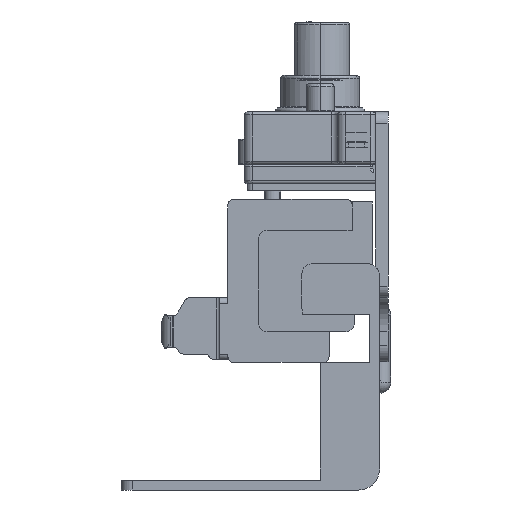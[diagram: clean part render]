
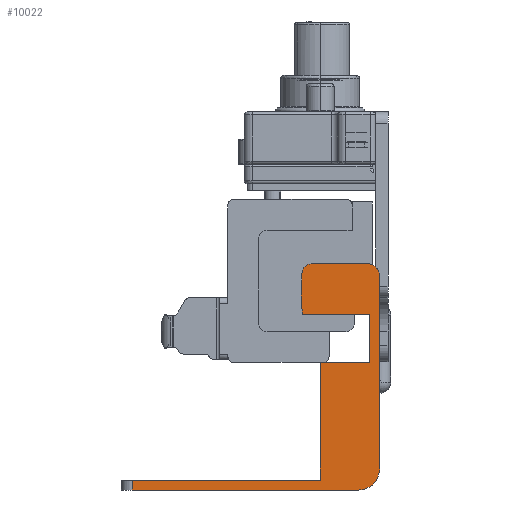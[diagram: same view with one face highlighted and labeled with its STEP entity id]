
A CAD part, left-side view. The second image highlights one B-rep face of the part: STEP entity #10022.
In plain terms, the highlighted planar face has unit normal (-1, 0, 0).
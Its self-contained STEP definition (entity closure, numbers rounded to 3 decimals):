
#54 = VERTEX_POINT ( 'NONE', #5776 ) ;
#110 = DIRECTION ( 'NONE',  ( 0., 0., -1. ) ) ;
#127 = ORIENTED_EDGE ( 'NONE', *, *, #11986, .T. ) ;
#458 = VERTEX_POINT ( 'NONE', #16526 ) ;
#469 = VECTOR ( 'NONE', #13310, 1000. ) ;
#476 = VERTEX_POINT ( 'NONE', #16461 ) ;
#521 = DIRECTION ( 'NONE',  ( 0., 0., 1. ) ) ;
#545 = DIRECTION ( 'NONE',  ( -1., 0., 0. ) ) ;
#578 = CARTESIAN_POINT ( 'NONE',  ( -242., -30.563, 57.579 ) ) ;
#926 = AXIS2_PLACEMENT_3D ( 'NONE', #9191, #8977, #8947 ) ;
#1147 = CIRCLE ( 'NONE', #926, 53. ) ;
#1173 = ORIENTED_EDGE ( 'NONE', *, *, #5533, .T. ) ;
#1194 = CARTESIAN_POINT ( 'NONE',  ( -242., 11.167, 21.319 ) ) ;
#1252 = DIRECTION ( 'NONE',  ( 0., 0., 1. ) ) ;
#1504 = VERTEX_POINT ( 'NONE', #8948 ) ;
#1641 = VECTOR ( 'NONE', #10338, 1000. ) ;
#1687 = ORIENTED_EDGE ( 'NONE', *, *, #9300, .F. ) ;
#1705 = ORIENTED_EDGE ( 'NONE', *, *, #10465, .T. ) ;
#1783 = ORIENTED_EDGE ( 'NONE', *, *, #4195, .T. ) ;
#1819 = FACE_OUTER_BOUND ( 'NONE', #3827, .T. ) ;
#2185 = CARTESIAN_POINT ( 'NONE',  ( -242., -22.263, 21.319 ) ) ;
#2455 = CIRCLE ( 'NONE', #3541, 1.5 ) ;
#2465 = VERTEX_POINT ( 'NONE', #13734 ) ;
#2596 = EDGE_CURVE ( 'NONE', #8496, #17043, #12895, .T. ) ;
#2975 = ORIENTED_EDGE ( 'NONE', *, *, #2596, .T. ) ;
#3174 = CARTESIAN_POINT ( 'NONE',  ( -242., -22.263, 42.249 ) ) ;
#3221 = EDGE_CURVE ( 'NONE', #1504, #8496, #14363, .T. ) ;
#3315 = VERTEX_POINT ( 'NONE', #7414 ) ;
#3541 = AXIS2_PLACEMENT_3D ( 'NONE', #10357, #10198, #10136 ) ;
#3647 = LINE ( 'NONE', #16770, #13446 ) ;
#3764 = VERTEX_POINT ( 'NONE', #6488 ) ;
#3827 = EDGE_LOOP ( 'NONE', ( #9555, #11843, #14229, #2975, #1173, #1783, #10419, #1687, #1705, #8712, #17726, #127, #16108, #14663, #11184 ) ) ;
#4038 = CIRCLE ( 'NONE', #11573, 2. ) ;
#4112 = LINE ( 'NONE', #17857, #14763 ) ;
#4195 = EDGE_CURVE ( 'NONE', #458, #7326, #16092, .T. ) ;
#4335 = EDGE_CURVE ( 'NONE', #12016, #9806, #4112, .T. ) ;
#4491 = VECTOR ( 'NONE', #16204, 1000. ) ;
#4633 = LINE ( 'NONE', #17490, #11622 ) ;
#5533 = EDGE_CURVE ( 'NONE', #17043, #458, #3647, .T. ) ;
#5776 = CARTESIAN_POINT ( 'NONE',  ( -242., -20.683, 59.849 ) ) ;
#6363 = VERTEX_POINT ( 'NONE', #16418 ) ;
#6488 = CARTESIAN_POINT ( 'NONE',  ( -242., 11.167, 21.319 ) ) ;
#6650 = LINE ( 'NONE', #17704, #17299 ) ;
#6696 = CARTESIAN_POINT ( 'NONE',  ( -242., -20.683, 59.836 ) ) ;
#6980 = DIRECTION ( 'NONE',  ( 0., 0., 1. ) ) ;
#6999 = DIRECTION ( 'NONE',  ( -1., 0., 0. ) ) ;
#7004 = CARTESIAN_POINT ( 'NONE',  ( -242., -20.913, 57.849 ) ) ;
#7326 = VERTEX_POINT ( 'NONE', #16889 ) ;
#7414 = CARTESIAN_POINT ( 'NONE',  ( -242., -19.343, 59.088 ) ) ;
#7622 = LINE ( 'NONE', #1194, #11720 ) ;
#8279 = LINE ( 'NONE', #15894, #4491 ) ;
#8496 = VERTEX_POINT ( 'NONE', #15447 ) ;
#8664 = EDGE_CURVE ( 'NONE', #12514, #3764, #8731, .T. ) ;
#8712 = ORIENTED_EDGE ( 'NONE', *, *, #11310, .T. ) ;
#8731 = LINE ( 'NONE', #10932, #1641 ) ;
#8948 = CARTESIAN_POINT ( 'NONE',  ( -242., 11.167, 19.549 ) ) ;
#8947 = DIRECTION ( 'NONE',  ( 0., 0., 1. ) ) ;
#8977 = DIRECTION ( 'NONE',  ( -1., 0., 0. ) ) ;
#9024 = EDGE_CURVE ( 'NONE', #1504, #3764, #7622, .T. ) ;
#9191 = CARTESIAN_POINT ( 'NONE',  ( -242., -71.913, 54.834 ) ) ;
#9300 = EDGE_CURVE ( 'NONE', #16660, #54, #8279, .T. ) ;
#9555 = ORIENTED_EDGE ( 'NONE', *, *, #8664, .T. ) ;
#9806 = VERTEX_POINT ( 'NONE', #15604 ) ;
#10022 = ADVANCED_FACE ( 'NONE', ( #1819 ), #12874, .F. ) ;
#10136 = DIRECTION ( 'NONE',  ( 0., 0., 1. ) ) ;
#10198 = DIRECTION ( 'NONE',  ( -1., 0., 0. ) ) ;
#10296 = CARTESIAN_POINT ( 'NONE',  ( -242., -32.833, 23.319 ) ) ;
#10338 = DIRECTION ( 'NONE',  ( 0., 1., 0. ) ) ;
#10357 = CARTESIAN_POINT ( 'NONE',  ( -242., -20.52, 58.159 ) ) ;
#10419 = ORIENTED_EDGE ( 'NONE', *, *, #15189, .T. ) ;
#10465 = EDGE_CURVE ( 'NONE', #16660, #3315, #4038, .T. ) ;
#10932 = CARTESIAN_POINT ( 'NONE',  ( -242., -9.313, 21.319 ) ) ;
#11065 = DIRECTION ( 'NONE',  ( 0., 0., 1. ) ) ;
#11096 = DIRECTION ( 'NONE',  ( -1., 0., 0. ) ) ;
#11114 = CARTESIAN_POINT ( 'NONE',  ( -242., -29.063, 23.319 ) ) ;
#11184 = ORIENTED_EDGE ( 'NONE', *, *, #13026, .T. ) ;
#11223 = DIRECTION ( 'NONE',  ( 0., 0., 1. ) ) ;
#11310 = EDGE_CURVE ( 'NONE', #3315, #6363, #2455, .T. ) ;
#11573 = AXIS2_PLACEMENT_3D ( 'NONE', #7004, #6999, #6980 ) ;
#11622 = VECTOR ( 'NONE', #17431, 1000. ) ;
#11640 = LINE ( 'NONE', #3174, #14872 ) ;
#11660 = LINE ( 'NONE', #13135, #469 ) ;
#11661 = EDGE_CURVE ( 'NONE', #6363, #2465, #1147, .T. ) ;
#11720 = VECTOR ( 'NONE', #1252, 1000. ) ;
#11843 = ORIENTED_EDGE ( 'NONE', *, *, #9024, .F. ) ;
#11986 = EDGE_CURVE ( 'NONE', #2465, #12016, #11660, .T. ) ;
#12016 = VERTEX_POINT ( 'NONE', #12498 ) ;
#12482 = EDGE_CURVE ( 'NONE', #476, #9806, #11640, .T. ) ;
#12498 = CARTESIAN_POINT ( 'NONE',  ( -242., -31.063, 50.849 ) ) ;
#12514 = VERTEX_POINT ( 'NONE', #2185 ) ;
#12581 = DIRECTION ( 'NONE',  ( 0., 0., 1. ) ) ;
#12611 = DIRECTION ( 'NONE',  ( 1., 0., 0. ) ) ;
#12618 = CARTESIAN_POINT ( 'NONE',  ( -242., -9.313, 2.024 ) ) ;
#12874 = PLANE ( 'NONE',  #14104 ) ;
#12895 = CIRCLE ( 'NONE', #14962, 3.77 ) ;
#13026 = EDGE_CURVE ( 'NONE', #476, #12514, #4633, .T. ) ;
#13135 = CARTESIAN_POINT ( 'NONE',  ( -242., -9.313, 50.849 ) ) ;
#13143 = AXIS2_PLACEMENT_3D ( 'NONE', #578, #545, #521 ) ;
#13310 = DIRECTION ( 'NONE',  ( 0., -1., 0. ) ) ;
#13446 = VECTOR ( 'NONE', #11223, 1000. ) ;
#13454 = DIRECTION ( 'NONE',  ( 0., 1., 0. ) ) ;
#13734 = CARTESIAN_POINT ( 'NONE',  ( -242., -19.063, 50.849 ) ) ;
#14104 = AXIS2_PLACEMENT_3D ( 'NONE', #12618, #12611, #12581 ) ;
#14229 = ORIENTED_EDGE ( 'NONE', *, *, #3221, .T. ) ;
#14271 = DIRECTION ( 'NONE',  ( 0., -1., 0. ) ) ;
#14363 = LINE ( 'NONE', #15009, #17708 ) ;
#14663 = ORIENTED_EDGE ( 'NONE', *, *, #12482, .F. ) ;
#14763 = VECTOR ( 'NONE', #110, 1000. ) ;
#14872 = VECTOR ( 'NONE', #15104, 1000. ) ;
#14962 = AXIS2_PLACEMENT_3D ( 'NONE', #11114, #11096, #11065 ) ;
#15009 = CARTESIAN_POINT ( 'NONE',  ( -242., -9.313, 19.549 ) ) ;
#15104 = DIRECTION ( 'NONE',  ( 0., -1., 0. ) ) ;
#15189 = EDGE_CURVE ( 'NONE', #7326, #54, #6650, .T. ) ;
#15447 = CARTESIAN_POINT ( 'NONE',  ( -242., -29.063, 19.549 ) ) ;
#15604 = CARTESIAN_POINT ( 'NONE',  ( -242., -31.063, 42.249 ) ) ;
#15894 = CARTESIAN_POINT ( 'NONE',  ( -242., -20.683, 2.024 ) ) ;
#16092 = CIRCLE ( 'NONE', #13143, 2.27 ) ;
#16108 = ORIENTED_EDGE ( 'NONE', *, *, #4335, .T. ) ;
#16204 = DIRECTION ( 'NONE',  ( 0., 0., 1. ) ) ;
#16418 = CARTESIAN_POINT ( 'NONE',  ( -242., -19.024, 58.256 ) ) ;
#16461 = CARTESIAN_POINT ( 'NONE',  ( -242., -22.263, 42.249 ) ) ;
#16526 = CARTESIAN_POINT ( 'NONE',  ( -242., -32.833, 57.579 ) ) ;
#16660 = VERTEX_POINT ( 'NONE', #6696 ) ;
#16770 = CARTESIAN_POINT ( 'NONE',  ( -242., -32.833, 2.024 ) ) ;
#16889 = CARTESIAN_POINT ( 'NONE',  ( -242., -30.563, 59.849 ) ) ;
#17043 = VERTEX_POINT ( 'NONE', #10296 ) ;
#17299 = VECTOR ( 'NONE', #13454, 1000. ) ;
#17431 = DIRECTION ( 'NONE',  ( 0., 0., -1. ) ) ;
#17490 = CARTESIAN_POINT ( 'NONE',  ( -242., -22.263, 2.024 ) ) ;
#17704 = CARTESIAN_POINT ( 'NONE',  ( -242., -9.313, 59.849 ) ) ;
#17708 = VECTOR ( 'NONE', #14271, 1000. ) ;
#17726 = ORIENTED_EDGE ( 'NONE', *, *, #11661, .T. ) ;
#17857 = CARTESIAN_POINT ( 'NONE',  ( -242., -31.063, 2.024 ) ) ;
